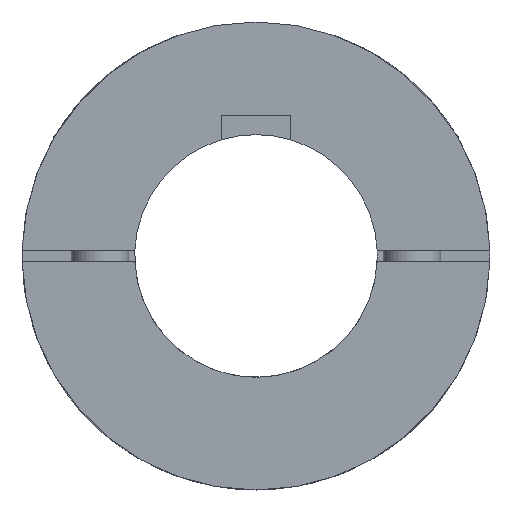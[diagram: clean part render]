
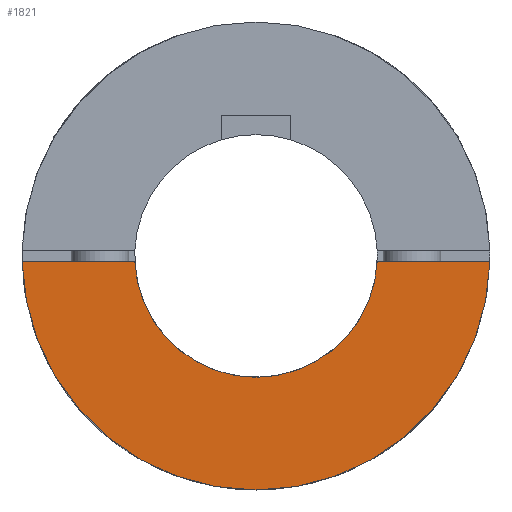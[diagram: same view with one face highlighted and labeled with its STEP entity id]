
A CAD part, left-side view. The second image highlights one B-rep face of the part: STEP entity #1821.
In plain terms, the highlighted planar face has unit normal (-1, 0, 0).
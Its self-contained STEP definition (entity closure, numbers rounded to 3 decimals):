
#26=PLANE('',#2052);
#189=LINE('',#3334,#332);
#192=LINE('',#3340,#335);
#332=VECTOR('',#2469,33.559);
#335=VECTOR('',#2474,33.559);
#489=FACE_OUTER_BOUND('',#605,.T.);
#605=EDGE_LOOP('',(#1483,#1484,#1485,#1486));
#797=CIRCLE('',#2039,21.);
#799=CIRCLE('',#2053,40.5);
#915=VERTEX_POINT('',#3287);
#916=VERTEX_POINT('',#3288);
#927=VERTEX_POINT('',#3333);
#929=VERTEX_POINT('',#3339);
#1127=EDGE_CURVE('',#915,#916,#797,.T.);
#1150=EDGE_CURVE('',#927,#915,#189,.T.);
#1153=EDGE_CURVE('',#929,#916,#192,.T.);
#1154=EDGE_CURVE('',#929,#927,#799,.T.);
#1483=ORIENTED_EDGE('',*,*,#1127,.T.);
#1484=ORIENTED_EDGE('',*,*,#1153,.F.);
#1485=ORIENTED_EDGE('',*,*,#1154,.T.);
#1486=ORIENTED_EDGE('',*,*,#1150,.T.);
#1821=ADVANCED_FACE('',(#489),#26,.T.);
#2039=AXIS2_PLACEMENT_3D('',#3289,#2422,#2423);
#2052=AXIS2_PLACEMENT_3D('',#3338,#2472,#2473);
#2053=AXIS2_PLACEMENT_3D('',#3341,#2475,#2476);
#2422=DIRECTION('center_axis',(1.,0.,0.));
#2423=DIRECTION('ref_axis',(0.,0.,1.));
#2469=DIRECTION('',(0.,1.,0.));
#2472=DIRECTION('center_axis',(-1.,0.,0.));
#2473=DIRECTION('ref_axis',(0.,-1.,0.));
#2474=DIRECTION('',(0.,-1.,0.));
#2475=DIRECTION('center_axis',(-1.,0.,0.));
#2476=DIRECTION('ref_axis',(0.,1.,0.));
#3287=CARTESIAN_POINT('',(0.,-20.976,-1.));
#3288=CARTESIAN_POINT('',(0.,20.976,-1.));
#3289=CARTESIAN_POINT('Origin',(0.,0.,0.));
#3333=CARTESIAN_POINT('',(0.,-40.488,-1.));
#3334=CARTESIAN_POINT('',(0.,-40.488,-1.));
#3338=CARTESIAN_POINT('Origin',(0.,0.,-7.));
#3339=CARTESIAN_POINT('',(0.,40.488,-1.));
#3340=CARTESIAN_POINT('',(0.,40.488,-1.));
#3341=CARTESIAN_POINT('Origin',(0.,0.,0.));
